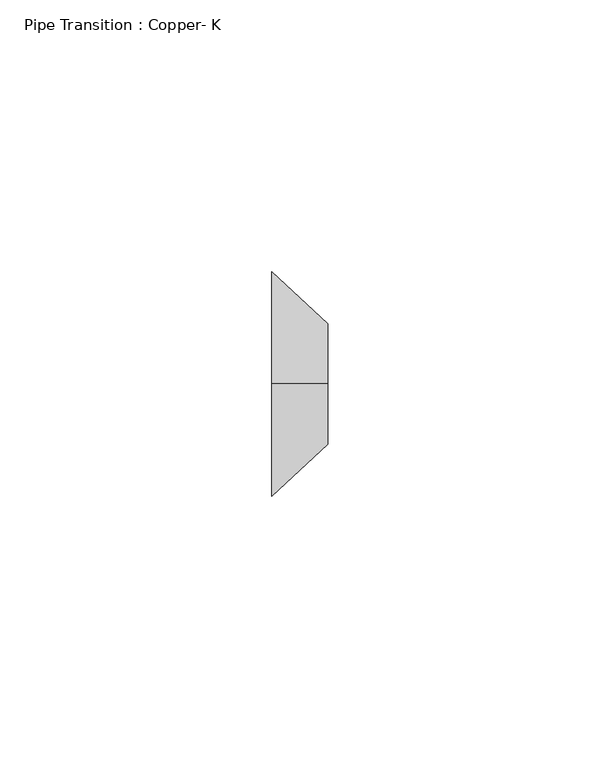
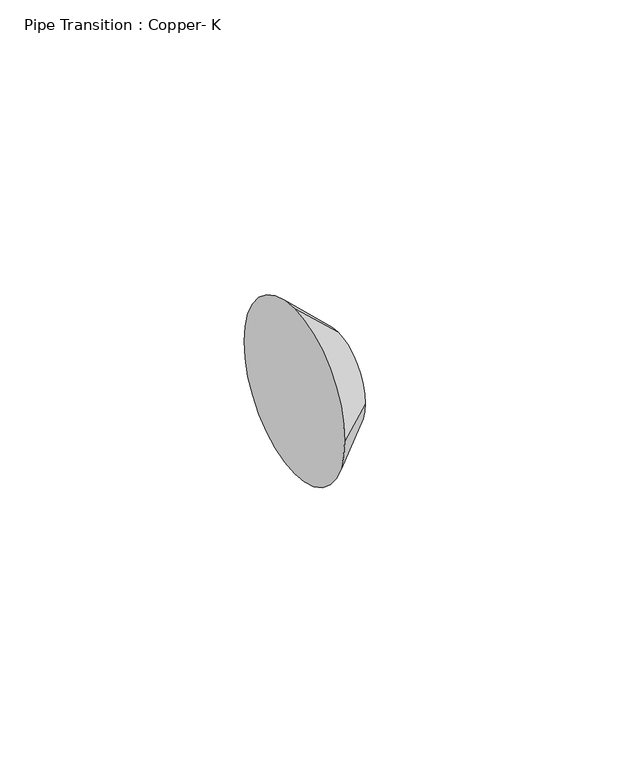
"""IFC4 building model written with IfcOpenShell, lengths in millimetres: pipe fitting geometry, Pipe Transition : Copper- K."""

from ifc_helpers import new_model, si_unit, frame, origin, place, context, project, spatial, circle_curve, source, transform, mapped, element, save
from ifc_brep_helpers import plane_surface, spline_surface, advanced_brep


def pipe_transition_copper_k_6071329e(model_context):
    return source(origin(), model_context, "Body", "AdvancedBrep", [
        advanced_brep(
        [(10.31875, 0.0, 11.1466171), (10.31875, -11.1125, 0.0341171), (10.31875, 0.0, -11.0783829), (10.31875, 11.1125, 0.0341171), (0.0, 0.0, 20.6375), (0.0, 20.6375, 0.0), (0.0, 0.0, -20.6375), (0.0, -20.6375, 0.0)],
        [
            (0, 1, circle_curve(frame((10.31875, 0.0, 0.0341171), z_axis=(1.0, 0.0, 0.0), x_axis=(0.0, 1.0, 0.0)), 11.1125)),
            (1, 2, circle_curve(frame((10.31875, 0.0, 0.0341171), z_axis=(1.0, 0.0, 0.0), x_axis=(0.0, 1.0, 0.0)), 11.1125)),
            (2, 3, circle_curve(frame((10.31875, 0.0, 0.0341171), z_axis=(1.0, 0.0, 0.0), x_axis=(0.0, 1.0, 0.0)), 11.1125)),
            (3, 0, circle_curve(frame((10.31875, 0.0, 0.0341171), z_axis=(1.0, 0.0, 0.0), x_axis=(0.0, 1.0, 0.0)), 11.1125)),
            (4, 5, circle_curve(frame((0.0, 0.0, 0.0), z_axis=(-1.0, 0.0, 0.0), x_axis=(0.0, 1.0, 0.0)), 20.6375)),
            (5, 6, circle_curve(frame((0.0, 0.0, 0.0), z_axis=(-1.0, 0.0, 0.0), x_axis=(0.0, 1.0, 0.0)), 20.6375)),
            (6, 7, circle_curve(frame((0.0, 0.0, 0.0), z_axis=(-1.0, 0.0, 0.0), x_axis=(0.0, 1.0, 0.0)), 20.6375)),
            (7, 4, circle_curve(frame((0.0, 0.0, 0.0), z_axis=(-1.0, 0.0, 0.0), x_axis=(0.0, 1.0, 0.0)), 20.6375)),
            (7, 1),
            (0, 4),
            (6, 2),
            (5, 3),
        ],
        [
            plane_surface(frame((10.31875, 0.0, 0.0341171), z_axis=(1.0, 0.0, 0.0), x_axis=(0.0, -1.0, 0.0))),
            plane_surface(frame((0.0, 0.0, 0.0), z_axis=(-1.0, 0.0, 0.0), x_axis=(0.0, -1.0, 0.0))),
            spline_surface(2, 1, [[(0.0, 0.0, 20.6375), (10.31875, 0.0, 11.1466171)], [(0.0, -20.6375, 20.6375), (10.31875, -11.1125, 11.1466171)], [(0.0, -20.6375, 0.0), (10.31875, -11.1125, 0.0341171)]], [3, 3], [2, 2], [0.0, 1.0], [0.0, 1.0], weights=[[1.0, 1.0], [0.7071067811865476, 0.7071067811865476], [1.0, 1.0]]),
            spline_surface(2, 1, [[(0.0, -20.6375, 0.0), (10.31875, -11.1125, 0.0341171)], [(0.0, -20.6375, -20.6375), (10.31875, -11.1125, -11.078382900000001)], [(0.0, 0.0, -20.6375), (10.31875, 0.0, -11.0783829)]], [3, 3], [2, 2], [0.0, 1.0], [0.0, 1.0], weights=[[1.0, 1.0], [0.7071067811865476, 0.7071067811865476], [1.0, 1.0]]),
            spline_surface(2, 1, [[(0.0, 0.0, -20.6375), (10.31875, 0.0, -11.0783829)], [(0.0, 20.6375, -20.6375), (10.31875, 11.112499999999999, -11.0783829)], [(0.0, 20.6375, 0.0), (10.31875, 11.1125, 0.0341171)]], [3, 3], [2, 2], [0.0, 1.0], [0.0, 1.0], weights=[[1.0, 1.0], [0.7071067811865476, 0.7071067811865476], [1.0, 1.0]]),
            spline_surface(2, 1, [[(0.0, 20.6375, 0.0), (10.31875, 11.1125, 0.0341171)], [(0.0, 20.6375, 20.6375), (10.31875, 11.1125, 11.1466171)], [(0.0, 0.0, 20.6375), (10.31875, 0.0, 11.1466171)]], [3, 3], [2, 2], [0.0, 1.0], [0.0, 1.0], weights=[[1.0, 1.0], [0.7071067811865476, 0.7071067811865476], [1.0, 1.0]]),
        ],
        [
            (0, [[1, 2, 3, 4]]),
            (1, [[5, 6, 7, 8]]),
            (2, [[-8, 9, -1, 10]]),
            (3, [[-7, 11, -2, -9]]),
            (4, [[-6, 12, -3, -11]]),
            (5, [[-5, -10, -4, -12]]),
        ],
    ),
        advanced_brep(
        [(10.31875, 0.0, 11.1466171), (10.31875, -11.1125, 0.0341171), (10.31875, 0.0, -11.0783829), (10.31875, 11.1125, 0.0341171), (0.0, 0.0, 20.6375), (0.0, 20.6375, 0.0), (0.0, 0.0, -20.6375), (0.0, -20.6375, 0.0)],
        [
            (0, 1, circle_curve(frame((10.31875, 0.0, 0.0341171), z_axis=(1.0, 0.0, 0.0), x_axis=(0.0, 1.0, 0.0)), 11.1125)),
            (1, 2, circle_curve(frame((10.31875, 0.0, 0.0341171), z_axis=(1.0, 0.0, 0.0), x_axis=(0.0, 1.0, 0.0)), 11.1125)),
            (2, 3, circle_curve(frame((10.31875, 0.0, 0.0341171), z_axis=(1.0, 0.0, 0.0), x_axis=(0.0, 1.0, 0.0)), 11.1125)),
            (3, 0, circle_curve(frame((10.31875, 0.0, 0.0341171), z_axis=(1.0, 0.0, 0.0), x_axis=(0.0, 1.0, 0.0)), 11.1125)),
            (4, 5, circle_curve(frame((0.0, 0.0, 0.0), z_axis=(-1.0, 0.0, 0.0), x_axis=(0.0, 1.0, 0.0)), 20.6375)),
            (5, 6, circle_curve(frame((0.0, 0.0, 0.0), z_axis=(-1.0, 0.0, 0.0), x_axis=(0.0, 1.0, 0.0)), 20.6375)),
            (6, 7, circle_curve(frame((0.0, 0.0, 0.0), z_axis=(-1.0, 0.0, 0.0), x_axis=(0.0, 1.0, 0.0)), 20.6375)),
            (7, 4, circle_curve(frame((0.0, 0.0, 0.0), z_axis=(-1.0, 0.0, 0.0), x_axis=(0.0, 1.0, 0.0)), 20.6375)),
            (7, 1),
            (0, 4),
            (6, 2),
            (5, 3),
        ],
        [
            plane_surface(frame((10.31875, 0.0, 0.0341171), z_axis=(1.0, 0.0, 0.0), x_axis=(0.0, -1.0, 0.0))),
            plane_surface(frame((0.0, 0.0, 0.0), z_axis=(-1.0, 0.0, 0.0), x_axis=(0.0, -1.0, 0.0))),
            spline_surface(2, 1, [[(0.0, 0.0, 20.6375), (10.31875, 0.0, 11.1466171)], [(0.0, -20.6375, 20.6375), (10.31875, -11.1125, 11.1466171)], [(0.0, -20.6375, 0.0), (10.31875, -11.1125, 0.0341171)]], [3, 3], [2, 2], [0.0, 1.0], [0.0, 1.0], weights=[[1.0, 1.0], [0.7071067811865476, 0.7071067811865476], [1.0, 1.0]]),
            spline_surface(2, 1, [[(0.0, -20.6375, 0.0), (10.31875, -11.1125, 0.0341171)], [(0.0, -20.6375, -20.6375), (10.31875, -11.1125, -11.078382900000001)], [(0.0, 0.0, -20.6375), (10.31875, 0.0, -11.0783829)]], [3, 3], [2, 2], [0.0, 1.0], [0.0, 1.0], weights=[[1.0, 1.0], [0.7071067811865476, 0.7071067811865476], [1.0, 1.0]]),
            spline_surface(2, 1, [[(0.0, 0.0, -20.6375), (10.31875, 0.0, -11.0783829)], [(0.0, 20.6375, -20.6375), (10.31875, 11.112499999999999, -11.0783829)], [(0.0, 20.6375, 0.0), (10.31875, 11.1125, 0.0341171)]], [3, 3], [2, 2], [0.0, 1.0], [0.0, 1.0], weights=[[1.0, 1.0], [0.7071067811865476, 0.7071067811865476], [1.0, 1.0]]),
            spline_surface(2, 1, [[(0.0, 20.6375, 0.0), (10.31875, 11.1125, 0.0341171)], [(0.0, 20.6375, 20.6375), (10.31875, 11.1125, 11.1466171)], [(0.0, 0.0, 20.6375), (10.31875, 0.0, 11.1466171)]], [3, 3], [2, 2], [0.0, 1.0], [0.0, 1.0], weights=[[1.0, 1.0], [0.7071067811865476, 0.7071067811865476], [1.0, 1.0]]),
        ],
        [
            (0, [[1, 2, 3, 4]]),
            (1, [[5, 6, 7, 8]]),
            (2, [[-8, 9, -1, 10]]),
            (3, [[-7, 11, -2, -9]]),
            (4, [[-6, 12, -3, -11]]),
            (5, [[-5, -10, -4, -12]]),
        ],
    ),
    ])


if __name__ == "__main__":
    model = new_model("IFC4")
    model_context = context("Model", 3, world=origin())
    ifc_project = project(units=[si_unit("LENGTHUNIT", "METRE", prefix="MILLI")], contexts=[model_context])
    site = spatial("IfcSite", under=ifc_project)
    building = spatial("IfcBuilding", under=site)
    placement = place(None, origin())
    pipe_transition_copper_k_shape = pipe_transition_copper_k_6071329e(model_context)
    element("IfcPipeFitting", 1, ObjectType="Pipe Transition : Copper- K", at=placement, inside=building, context=model_context, shape_type="MappedRepresentation", body=[
        mapped(pipe_transition_copper_k_shape, transform((0.0, 0.0, 0.0), x_axis=(1.0, 0.0, 0.0), y_axis=(0.0, 1.0, 0.0), z_axis=(0.0, 0.0, 1.0))),
    ])
    save(model, "model.ifc")
